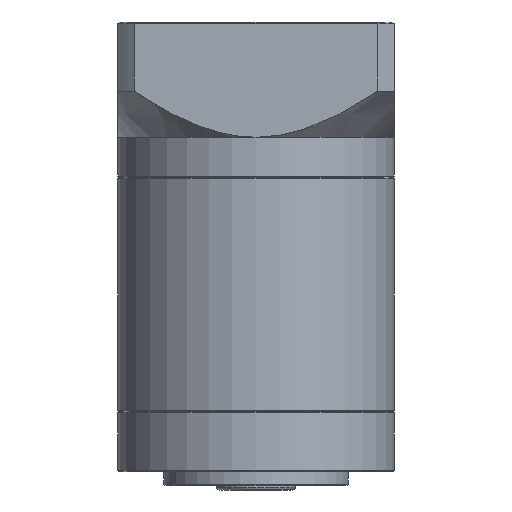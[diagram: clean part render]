
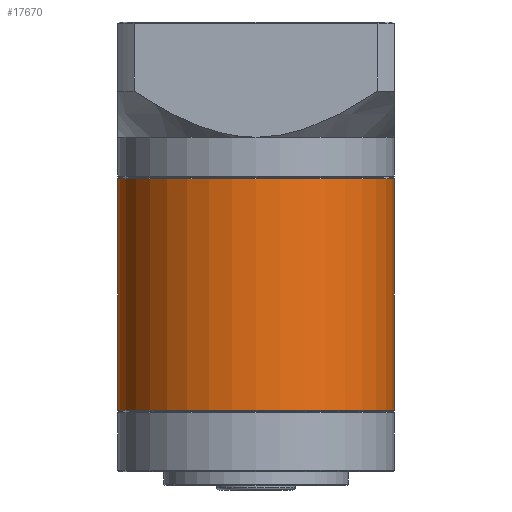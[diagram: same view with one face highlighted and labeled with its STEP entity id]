
A CAD part, front view. The second image highlights one B-rep face of the part: STEP entity #17670.
In plain terms, the highlighted cylindrical face has radius 30 mm (diameter 60 mm), a partial arc.
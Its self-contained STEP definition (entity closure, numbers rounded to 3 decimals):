
#3572 = AXIS2_PLACEMENT_3D ( 'NONE', #35299, #89528, #43081 ) ;
#4830 = CARTESIAN_POINT ( 'NONE',  ( -92.512, 25.705, -17.169 ) ) ;
#7782 = CARTESIAN_POINT ( 'NONE',  ( -62.512, 25.705, -67.719 ) ) ;
#8299 = DIRECTION ( 'NONE',  ( 0., 0., -1. ) ) ;
#9040 = AXIS2_PLACEMENT_3D ( 'NONE', #86403, #8299, #16830 ) ;
#12187 = CARTESIAN_POINT ( 'NONE',  ( -92.512, 25.705, -17.419 ) ) ;
#14897 = EDGE_CURVE ( 'NONE', #99756, #60836, #60781, .T. ) ;
#15651 = DIRECTION ( 'NONE',  ( 1., 0., 0. ) ) ;
#15975 = VERTEX_POINT ( 'NONE', #24356 ) ;
#16830 = DIRECTION ( 'NONE',  ( -1., 0., 0. ) ) ;
#17670 = ADVANCED_FACE ( 'NONE', ( #20108 ), #72291, .T. ) ;
#20108 = FACE_OUTER_BOUND ( 'NONE', #76382, .T. ) ;
#21692 = CARTESIAN_POINT ( 'NONE',  ( -32.512, 25.705, -17.419 ) ) ;
#24356 = CARTESIAN_POINT ( 'NONE',  ( -92.512, 25.705, -67.719 ) ) ;
#33347 = EDGE_CURVE ( 'NONE', #99756, #96163, #97707, .T. ) ;
#35299 = CARTESIAN_POINT ( 'NONE',  ( -62.512, 25.705, -17.419 ) ) ;
#37021 = ORIENTED_EDGE ( 'NONE', *, *, #14897, .T. ) ;
#42404 = VECTOR ( 'NONE', #43609, 1000. ) ;
#43081 = DIRECTION ( 'NONE',  ( 1., 0., 0. ) ) ;
#43609 = DIRECTION ( 'NONE',  ( 0., 0., -1. ) ) ;
#45665 = DIRECTION ( 'NONE',  ( 0., 0., -1. ) ) ;
#57033 = ORIENTED_EDGE ( 'NONE', *, *, #33347, .F. ) ;
#60781 = CIRCLE ( 'NONE', #3572, 30. ) ;
#60836 = VERTEX_POINT ( 'NONE', #12187 ) ;
#61822 = CARTESIAN_POINT ( 'NONE',  ( -32.512, 25.705, -67.719 ) ) ;
#62183 = DIRECTION ( 'NONE',  ( 0., 0., 1. ) ) ;
#65450 = LINE ( 'NONE', #4830, #42404 ) ;
#72291 = CYLINDRICAL_SURFACE ( 'NONE', #9040, 30. ) ;
#76382 = EDGE_LOOP ( 'NONE', ( #57033, #37021, #84747, #90638 ) ) ;
#79450 = VECTOR ( 'NONE', #45665, 1000. ) ;
#84624 = CARTESIAN_POINT ( 'NONE',  ( -32.512, 25.705, -17.169 ) ) ;
#84747 = ORIENTED_EDGE ( 'NONE', *, *, #95307, .T. ) ;
#86403 = CARTESIAN_POINT ( 'NONE',  ( -62.512, 25.705, -17.169 ) ) ;
#88022 = CIRCLE ( 'NONE', #95336, 30. ) ;
#89528 = DIRECTION ( 'NONE',  ( 0., 0., -1. ) ) ;
#90119 = EDGE_CURVE ( 'NONE', #15975, #96163, #88022, .T. ) ;
#90638 = ORIENTED_EDGE ( 'NONE', *, *, #90119, .T. ) ;
#95307 = EDGE_CURVE ( 'NONE', #60836, #15975, #65450, .T. ) ;
#95336 = AXIS2_PLACEMENT_3D ( 'NONE', #7782, #62183, #15651 ) ;
#96163 = VERTEX_POINT ( 'NONE', #61822 ) ;
#97707 = LINE ( 'NONE', #84624, #79450 ) ;
#99756 = VERTEX_POINT ( 'NONE', #21692 ) ;
